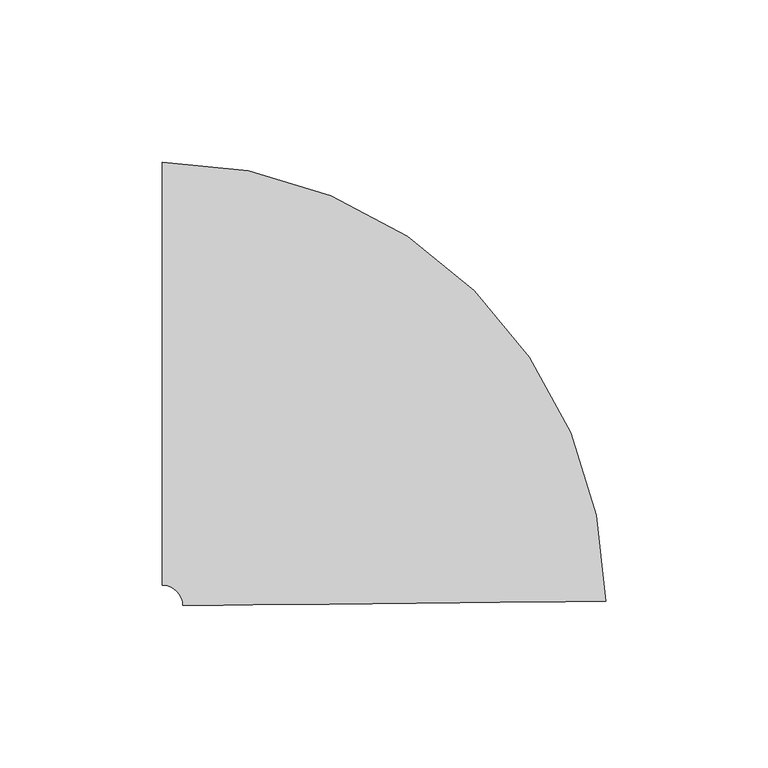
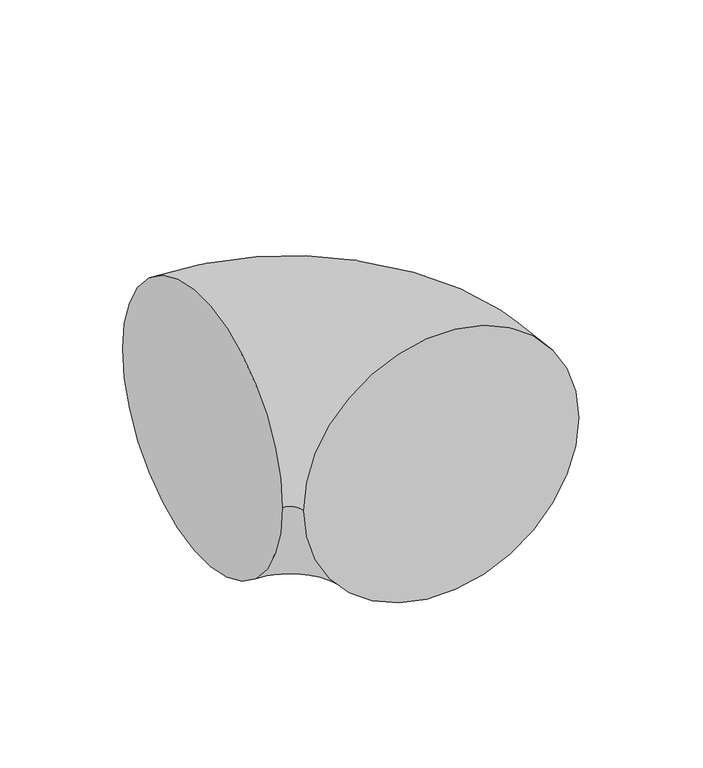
"""IFC4 building model written with IfcOpenShell, lengths in millimetres: pipe fitting geometry, M_Codo - Genérico : Estándar."""

from ifc_helpers import new_model, si_unit, point, frame, origin, place, context, project, spatial, circle_curve, ellipse_curve, trimmed, source, transform, mapped, element, save
from ifc_brep_helpers import plane_surface, revolved_surface, advanced_brep


def pipe_fitting_1b8f7a22(model_context):
    return source(origin(), model_context, "Body", "AdvancedBrep", [
        advanced_brep(
        [(-70.7266968, 65.0875, 0.0), (-70.7266968, -65.0875, 0.0), (65.7914775, -70.0723183, 0.0), (-64.3770143, -71.3740032, 0.0)],
        [
            (0, 1, circle_curve(frame((-70.7266968, 0.0, 0.0), z_axis=(-1.0, 0.0, 0.0), x_axis=(0.0, -1.0, 0.0)), 65.0875)),
            (1, 0, circle_curve(frame((-70.7266968, 0.0, 0.0), z_axis=(-1.0, 0.0, 0.0), x_axis=(0.0, -1.0, 0.0)), 65.0875)),
            (2, 3, circle_curve(frame((0.7072316, -70.7231607, 0.0), z_axis=(0.009999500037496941, -0.9999500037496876, 0.0), x_axis=(-0.9999500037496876, -0.009999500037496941, 0.0)), 65.0875)),
            (3, 2, circle_curve(frame((0.7072316, -70.7231607, 0.0), z_axis=(0.009999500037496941, -0.9999500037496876, 0.0), x_axis=(-0.9999500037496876, -0.009999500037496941, 0.0)), 65.0875)),
            (2, 0, circle_curve(frame((-70.7266968, -71.4375, 0.0), z_axis=(0.0, 0.0, 1.0), x_axis=(0.0, 1.0, 0.0)), 136.525)),
            (1, 3, circle_curve(frame((-70.7266968, -71.4375, 0.0), z_axis=(0.0, 0.0, -1.0), x_axis=(0.0, 1.0, 0.0)), 6.35)),
        ],
        [
            plane_surface(frame((-70.7266968, 0.0, 0.0), z_axis=(-1.0, 0.0, 0.0), x_axis=(0.0, 0.0, 1.0))),
            plane_surface(frame((0.7072316, -70.7231607, 0.0), z_axis=(0.009999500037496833, -0.9999500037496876, 0.0), x_axis=(0.0, 0.0, 1.0))),
            revolved_surface(trimmed(ellipse_curve(frame((-70.7266968, 0.0, 0.0), z_axis=(1.0, 0.0, 0.0), x_axis=(0.0, -1.0, 0.0)), 65.0875, 65.0875), [point((-70.7266968, 65.0875, 0.0))], [point((-70.7266968, -65.0875, 0.0))], True, "CARTESIAN"), (-70.7266968, -71.4375, 0.0), (0.0, 0.0, 1.0)),
            revolved_surface(trimmed(ellipse_curve(frame((-70.7266968, 0.0, 0.0), z_axis=(1.0, 0.0, 0.0), x_axis=(0.0, -1.0, 0.0)), 65.0875, 65.0875), [point((-70.7266968, -65.0875, 0.0))], [point((-70.7266968, 65.0875, 0.0))], True, "CARTESIAN"), (-70.7266968, -71.4375, 0.0), (0.0, 0.0, 1.0)),
        ],
        [
            (0, [[1, 2]]),
            (1, [[3, 4]]),
            (2, [[-3, 5, -2, 6]]),
            (3, [[-4, -6, -1, -5]]),
        ],
    ),
    ])


if __name__ == "__main__":
    model = new_model("IFC4")
    model_context = context("Model", 3, world=origin())
    ifc_project = project(units=[si_unit("LENGTHUNIT", "METRE", prefix="MILLI")], contexts=[model_context])
    site = spatial("IfcSite", under=ifc_project)
    building = spatial("IfcBuilding", under=site)
    placement = place(None, origin())
    pipe_fitting_shape = pipe_fitting_1b8f7a22(model_context)
    element("IfcPipeFitting", 1, ObjectType="M_Codo - Genérico : Estándar", at=placement, inside=building, context=model_context, shape_type="MappedRepresentation", body=[
        mapped(pipe_fitting_shape, transform((0.0, 0.0, 0.0), x_axis=(1.0, 0.0, 0.0), y_axis=(0.0, 1.0, 0.0), z_axis=(0.0, 0.0, 1.0))),
    ])
    save(model, "model.ifc")
